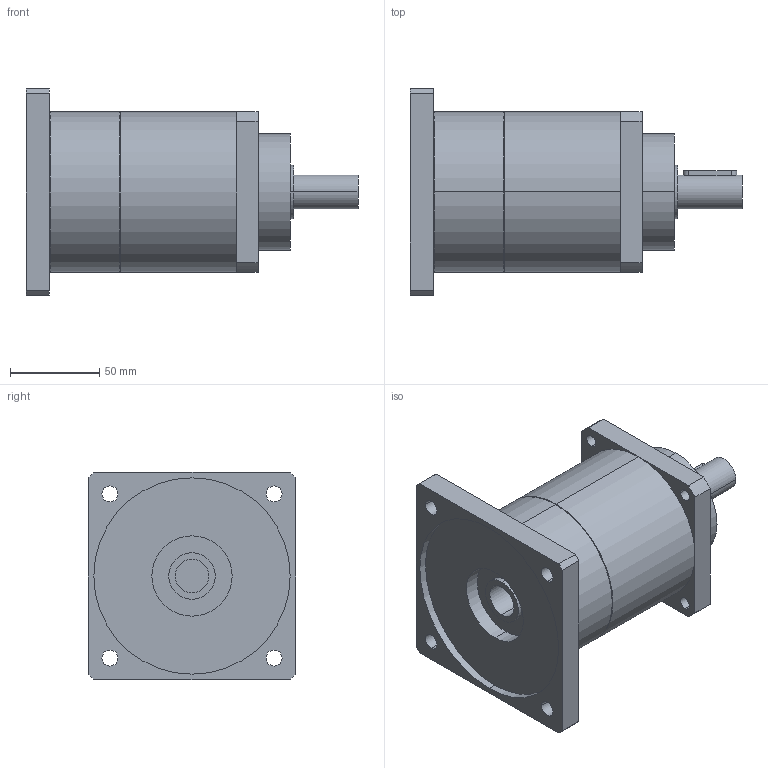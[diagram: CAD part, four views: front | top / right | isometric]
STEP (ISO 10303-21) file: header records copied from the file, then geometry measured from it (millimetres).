
FILE_DESCRIPTION(('CoCreate Modeling STEP Export'),'2;1');
FILE_NAME('GPT90_ig-9-12-16-20-25-28-35-40-50-70-100_19_B5T_19_P08.stp','2015-02-04T11:32:52',(''),(''),'CoCreate Modeling STEP processor for AP214 (Solid Model)','CoCreate Modeling 16.00C 25-Feb-2009 (C) Parametric Technology GmbH','');
FILE_SCHEMA(('AUTOMOTIVE_DESIGN { 1 0 10303 214 1 1 1 1 }'));
Length unit declared in the file: millimetre
Products named in the file (2): GPT90_ig-9-12-16-20-25-28-35-40-50-70-100_19_B5T_19_P08
Assembly tree (1 placements, depth 2):
  GPT90_ig-9-12-16-20-25-28-35-40-50-70-100_19_B5T_19_P08
    GPT90_ig-9-12-16-20-25-28-35-40-50-70-100_19_B5T_19_P08
Bounding box: 186 x 116 x 116 mm (x, y, z)
Volume: 940759.8 mm3; surface area: 83752.6 mm2
Topology: 1 solids, 1 shells, 77 faces, 206 edges, 141 vertices
Faces by surface type: cylinder 46, plane 27, cone 4
Entity records: 2596 total; most frequent: CARTESIAN_POINT 742, ORIENTED_EDGE 412, DIRECTION 324, EDGE_CURVE 206, VERTEX_POINT 141, AXIS2_PLACEMENT_3D 120, EDGE_LOOP 103, VECTOR 84
